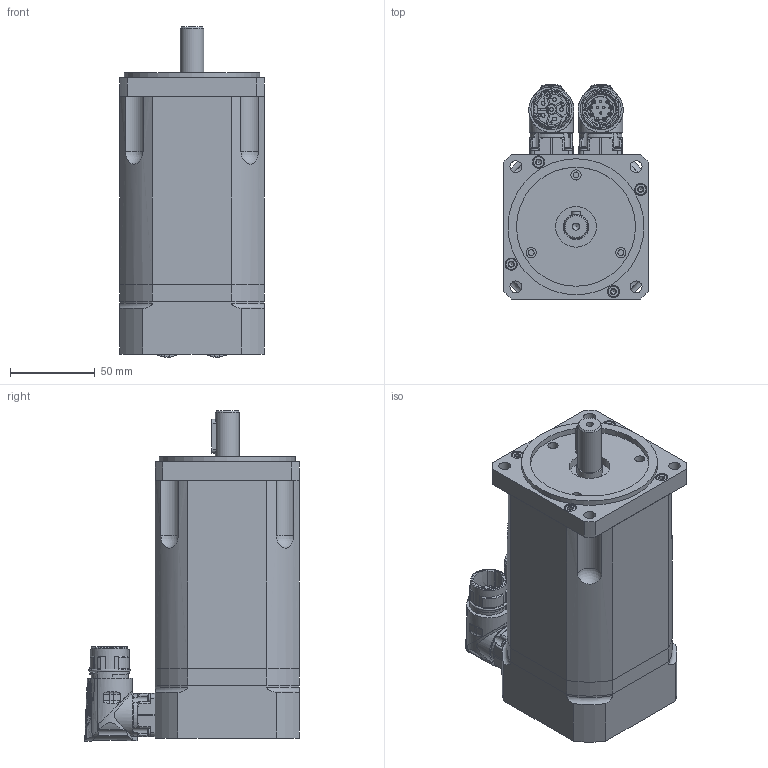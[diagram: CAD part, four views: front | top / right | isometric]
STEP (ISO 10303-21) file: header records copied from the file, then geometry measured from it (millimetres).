
FILE_DESCRIPTION(/* description */ (''),/* implementation_level */ '2;1');
FILE_NAME(/* name */ 'C:\Users\Public\Documents\Autodesk\Inventor LT 2014\Workspace\Motori Sito WEB\TG_3\STEP_DSM5_3x\DSM5_31_x197.stp',/* time_stamp */ '2021-03-31T14:10:15+02:00',/* author */ ('marcor'),/* organization */ (''),/* preprocessor_version */ 'ST-DEVELOPER v15.2',/* originating_system */ 'Autodesk Inventor LT ',/* authorisation */ '');
FILE_SCHEMA (('AUTOMOTIVE_DESIGN { 1 0 10303 214 3 1 1 }'));
Products named in the file (1): DSM5_31_x197
Bounding box: 85 x 126.5 x 194.41 mm (x, y, z)
Volume: 1147021.7 mm3; surface area: 136233.5 mm2
Topology: 16 solids, 26 shells, 1433 faces, 3712 edges, 2469 vertices
Faces by surface type: plane 525, cylinder 441, cone 247, bspline 113, torus 75, sphere 32
Full cylindrical faces by diameter (mm): 1.2 x12, 2.224 x8, 2.233 x6, 2.5 x8, 2.88 x8, 3.242 x12, 3.26 x8, 3.5 x3, 4 x12, 4.134 x1, 4.5 x14, 4.8 x8, 5.5 x3, 5.9 x2, 6 x3, 7 x16, 7.2 x8, 7.5 x4, 13.8 x1, 14 x1, 14.98 x1, 15.2 x1, 17.4 x3, 18 x1, 19.8 x1, 21.15 x4, 21.6 x1, 21.653 x2, 24 x1, 24.3 x2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
Entity records: 50760 total; most frequent: CARTESIAN_POINT 17585, ORIENTED_EDGE 6546, DIRECTION 6113, EDGE_CURVE 3273, AXIS2_PLACEMENT_3D 2513, VERTEX_POINT 2359, EDGE_LOOP 1964, ADVANCED_FACE 1433
